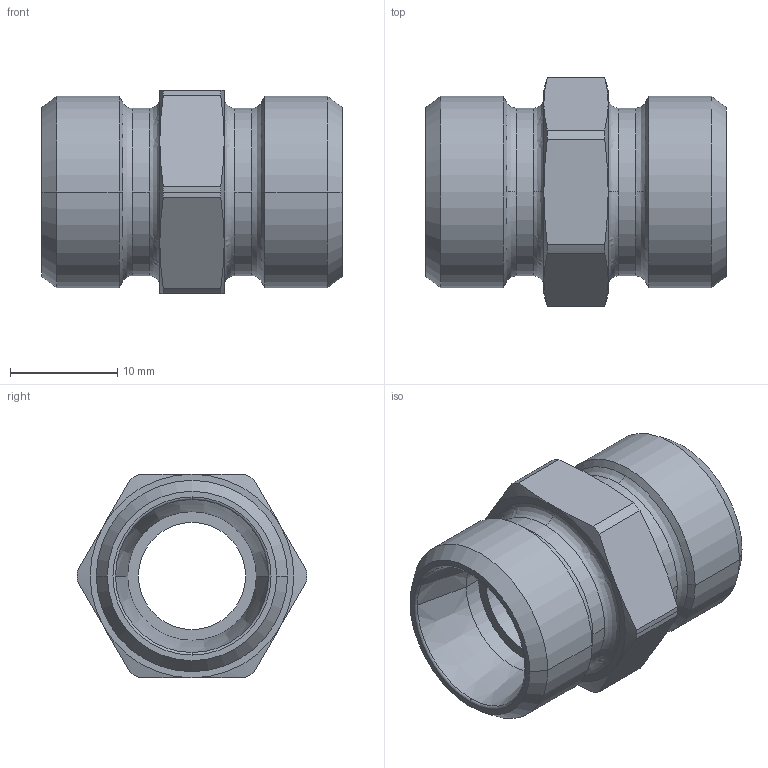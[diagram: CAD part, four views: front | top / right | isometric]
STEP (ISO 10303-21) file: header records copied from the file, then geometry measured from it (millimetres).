
FILE_DESCRIPTION((''),'2;1');
FILE_NAME('103507.stp','2007-10-31T11:34:29',(''),(''),'AutoCAD STEP 2000i','AutoCAD 2000i',', , ');
FILE_SCHEMA(('CONFIG_CONTROL_DESIGN'));
Length unit declared in the file: millimetre
Products named in the file (2): 103507.0; CHIAVE SMUSSATA#0
Assembly tree (1 placements, depth 2):
  103507.0
    CHIAVE SMUSSATA#0
Bounding box: 28 x 21.4 x 19 mm (x, y, z)
Volume: 3955.4 mm3; surface area: 2997.8 mm2
Topology: 1 solids, 1 shells, 70 faces, 172 edges, 108 vertices
Faces by surface type: cone 24, cylinder 22, plane 12, bspline 8, torus 4
Entity records: 2513 total; most frequent: CARTESIAN_POINT 752, DIRECTION 384, ORIENTED_EDGE 344, AXIS2_PLACEMENT_3D 172, EDGE_CURVE 172, VERTEX_POINT 108, CIRCLE 108, EDGE_LOOP 76
